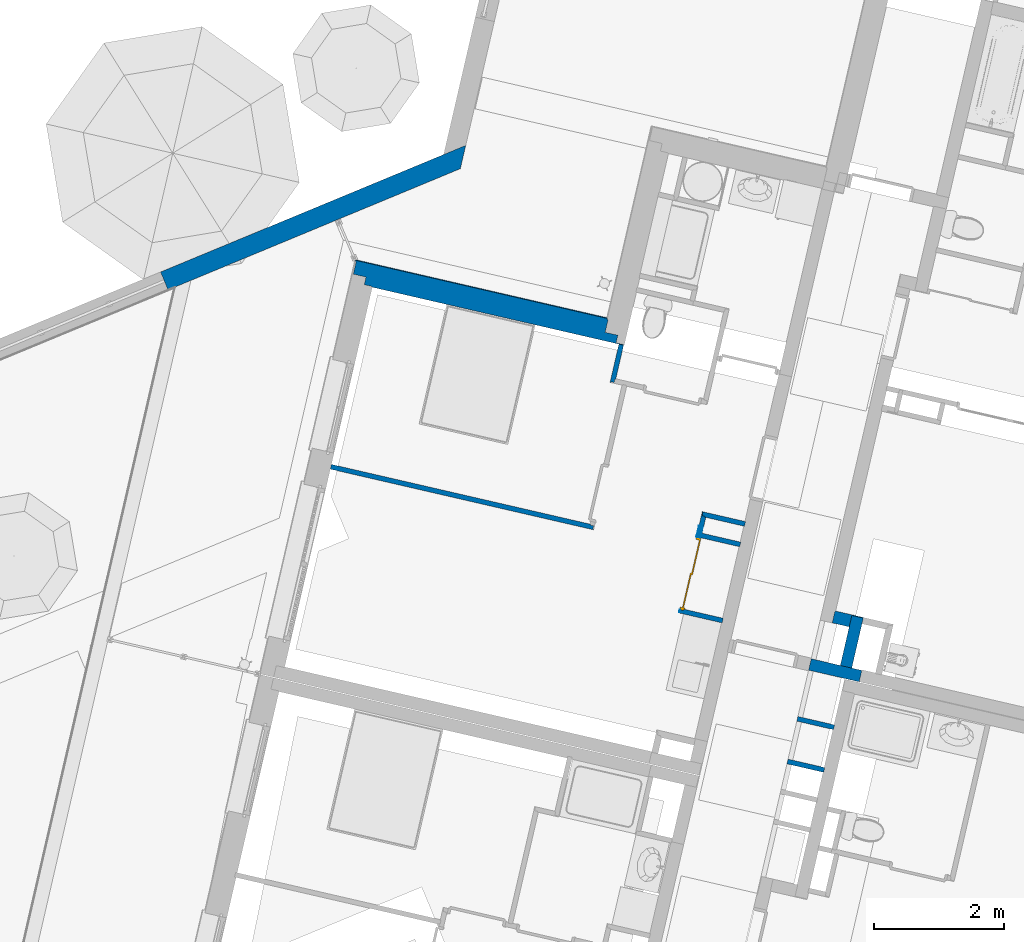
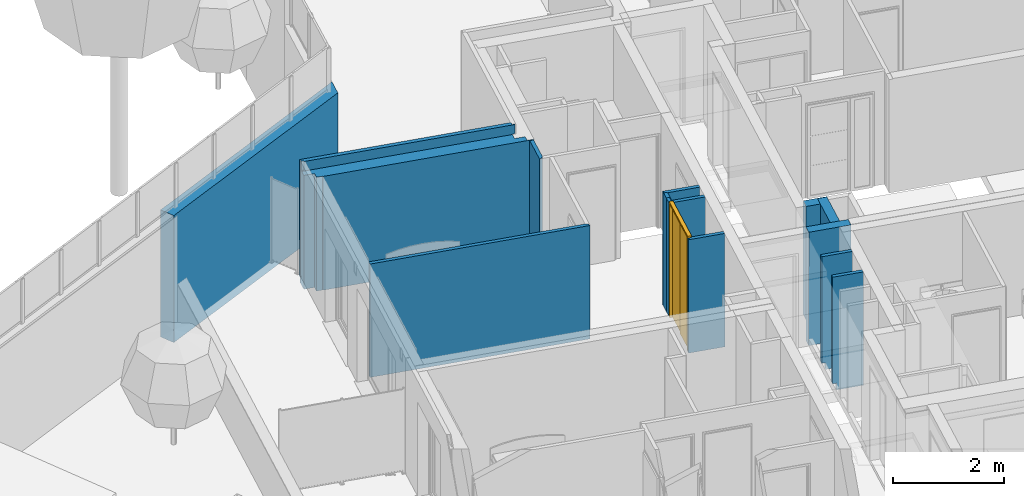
# One storey, part 50 of 119: 14 walls, 1 door, 1 opening.
"""IFC2X3 building model written with IfcOpenShell, lengths in metres."""

import ifcopenshell
import ifcopenshell.guid

model = None  # the IFC model being written
_history = None  # IfcOwnerHistory: only IFC2X3 demands one
_inside = {}  # id of a spatial element -> (the spatial element, [elements in it])
_under = {}  # id of a project, library or spatial element -> (it, [spatial elements below it])
_declared = {}  # id of a project -> (the project, [libraries it declares])
_typed = {}  # id of a type object -> (the type object, [elements of that type])
_made_of = {}  # id of a material, layer set ... -> (it, [elements and type objects made of it])


def new_model(schema):
    """Start an empty IFC model of exactly this schema.

    Asked for "IFC4X3", IfcOpenShell would pick the latest addendum, in which some entities
    have other attributes; the version numbers below select the first issue.
    IFC2X3 requires an IfcOwnerHistory on every rooted entity: one is made here for all.
    """
    global model, _history
    if schema == "IFC4X3":
        model = ifcopenshell.file(schema_version=(4, 3, 0, 0))
    else:
        model = ifcopenshell.file(schema=schema)
    _inside.clear()
    _under.clear()
    _declared.clear()
    _typed.clear()
    _made_of.clear()
    _history = None
    if model.schema == "IFC2X3":
        org = make("IfcOrganization", Name="unknown")
        user = make(
            "IfcPersonAndOrganization",
            ThePerson=make("IfcPerson", FamilyName="unknown"),
            TheOrganization=org,
        )
        app = make(
            "IfcApplication",
            ApplicationDeveloper=org,
            Version="unknown",
            ApplicationFullName="unknown",
            ApplicationIdentifier="unknown",
        )
        _history = make(
            "IfcOwnerHistory",
            OwningUser=user,
            OwningApplication=app,
            ChangeAction="ADDED",
            CreationDate=0,
        )
    return model


def make(cls, **values):
    """One entity of the class cls with the attributes given. An attribute that is None is left unset."""
    return model.create_entity(
        cls, **{name: value for name, value in values.items() if value is not None}
    )


def entity(cls, *values):
    """Any entity or typed value of the class cls, its attributes in the order of the schema. None: left unset."""
    e = model.create_entity(cls)
    for i, value in enumerate(values):
        if value is not None:
            e[i] = value
    return e


def rooted(cls, **values):
    """An entity with a GlobalId (a new one), such as an element, a storey or a relation."""
    return make(cls, GlobalId=ifcopenshell.guid.new(), OwnerHistory=_history, **values)


def si_unit(unit_type, name, prefix=None):
    """IfcSIUnit, for example si_unit("LENGTHUNIT", "METRE", prefix="MILLI")."""
    return make("IfcSIUnit", UnitType=unit_type, Prefix=prefix, Name=name)


def converted_unit(unit_type, name, factor, base, dimensions=None, offset=None):
    """IfcConversionBasedUnit, such as the inch: factor (a typed value) times the base unit."""
    return make(
        "IfcConversionBasedUnit"
        if offset is None
        else "IfcConversionBasedUnitWithOffset",
        ConversionOffset=offset,
        Dimensions=None
        if dimensions is None
        else entity("IfcDimensionalExponents", *dimensions),
        UnitType=unit_type,
        Name=name,
        ConversionFactor=make(
            "IfcMeasureWithUnit", ValueComponent=factor, UnitComponent=base
        ),
    )


def derived_unit(unit_type, elements):
    """IfcDerivedUnit: a product of units, each with its exponent."""
    return make(
        "IfcDerivedUnit",
        Elements=[
            make("IfcDerivedUnitElement", Unit=unit, Exponent=power)
            for unit, power in elements
        ],
        UnitType=unit_type,
    )


def money_unit(currency):
    """IfcMonetaryUnit."""
    return make("IfcMonetaryUnit", Currency=currency)


def assignment(units):
    """IfcUnitAssignment: the units of a project."""
    return None if units is None else make("IfcUnitAssignment", Units=units)


def point(xyz):
    """IfcCartesianPoint."""
    return None if xyz is None else make("IfcCartesianPoint", Coordinates=xyz)


def direction(xyz):
    """IfcDirection."""
    return None if xyz is None else make("IfcDirection", DirectionRatios=xyz)


def frame(location, z_axis=None, x_axis=None):
    """IfcAxis2Placement3D, a coordinate frame: its origin and axes. An axis left out is left unset."""
    return make(
        "IfcAxis2Placement3D",
        Location=point(location),
        Axis=direction(z_axis),
        RefDirection=direction(x_axis),
    )


def origin_with_axes():
    """The frame at (0, 0, 0) with the z axis (0, 0, 1) and the x axis (1, 0, 0) written out."""
    return frame((0.0, 0.0, 0.0), z_axis=(0.0, 0.0, 1.0), x_axis=(1.0, 0.0, 0.0))


def place(relative_to, where):
    """IfcLocalPlacement: puts the frame where relative to a parent placement (None: the world)."""
    return make(
        "IfcLocalPlacement", PlacementRelTo=relative_to, RelativePlacement=where
    )


def context(
    kind, dimensions, precision=None, world=None, true_north=None, identifier=None
):
    """IfcGeometricRepresentationContext, for example the 3D "Model" context."""
    return make(
        "IfcGeometricRepresentationContext",
        ContextIdentifier=identifier,
        ContextType=kind,
        CoordinateSpaceDimension=dimensions,
        Precision=precision,
        WorldCoordinateSystem=world,
        TrueNorth=true_north,
    )


def subcontext(parent, identifier, kind, view, scale=None):
    """IfcGeometricRepresentationSubContext, for example "Body" below "Model"."""
    return make(
        "IfcGeometricRepresentationSubContext",
        ContextIdentifier=identifier,
        ContextType=kind,
        ParentContext=parent,
        TargetScale=scale,
        TargetView=view,
    )


def project(units=None, contexts=None):
    """IfcProject with its units and contexts."""
    return rooted(
        "IfcProject",
        Name="project",
        RepresentationContexts=contexts,
        UnitsInContext=assignment(units),
    )


def spatial(cls, under=None, at=None, **own):
    """A site, building, storey or space (cls), placed at a placement, below another one or the project."""
    s = rooted(cls, ObjectPlacement=at, **own)
    if under is not None:
        _under.setdefault(under.id(), (under, []))[1].append(s)
    return s


def faces_of(points, faces, orient=None, outer=None):
    """IfcFace entities. A face is a list of loops; a loop is a list of indices into points, from 0.

    orient and outer hold one flag for each loop. By default every Orientation is true, the
    first loop of a face is its IfcFaceOuterBound and the others are IfcFaceBound.
    """
    made = []
    for i, loops in enumerate(faces):
        bounds = []
        for j, loop in enumerate(loops):
            is_outer = j == 0 if outer is None else outer[i][j]
            bounds.append(
                make(
                    "IfcFaceOuterBound" if is_outer else "IfcFaceBound",
                    Bound=make("IfcPolyLoop", Polygon=[points[k] for k in loop]),
                    Orientation=True if orient is None else orient[i][j],
                )
            )
        made.append(make("IfcFace", Bounds=bounds))
    return made


def faceted_brep(points, faces, orient=None, outer=None, voids=None):
    """IfcFacetedBrep: a solid bounded by flat faces; with voids (closed shells), ...WithVoids."""
    shared = [point(p) for p in points]
    hull = make("IfcClosedShell", CfsFaces=faces_of(shared, faces, orient, outer))
    if voids is None:
        return make("IfcFacetedBrep", Outer=hull)
    return make(
        "IfcFacetedBrepWithVoids",
        Outer=hull,
        Voids=[
            make(cls, CfsFaces=faces_of(shared, fs, o, b)) for cls, fs, o, b in voids
        ],
    )


def shape(context_of_items, identifier, shape_type, items):
    """IfcShapeRepresentation: the items that make up one representation, for example the "Body"."""
    return make(
        "IfcShapeRepresentation",
        ContextOfItems=context_of_items,
        RepresentationIdentifier=identifier,
        RepresentationType=shape_type,
        Items=items,
    )


def material(Name=None, Category=None):
    """IfcMaterial."""
    return make("IfcMaterial", Name=Name, Category=Category)


def material_list(materials):
    """IfcMaterialList."""
    return make("IfcMaterialList", Materials=materials)


def made_of(thing, what):
    """Note that an element or type object is made of a material, layer set ...; save() writes the relation."""
    if what is not None:
        _made_of.setdefault(what.id(), (what, []))[1].append(thing)
    return thing


def type_object(cls, material=None, **own):
    """A type object (cls), such as IfcWallType, which elements share."""
    return made_of(rooted(cls, **own), material)


def element(
    cls,
    number,
    at=None,
    inside=None,
    cuts=None,
    type_object=None,
    material=None,
    context=None,
    identifier="Body",
    shape_type=None,
    held_by="IfcProductDefinitionShape",
    body=None,
    shapes=None,
    **own,
):
    """One element of the class cls, such as IfcWall. Its Tag is "e" and its number.

    at: its placement. inside: the storey or other place that contains it. cuts: it is an
    opening in that element (IfcRelVoidsElement). A single representation is given by context,
    identifier, shape_type and body (its items); several are given by shapes. held_by: the class
    of the entity that holds the representations. save() writes the other relations.
    """
    e = rooted(cls, Tag="e%d" % number, ObjectPlacement=at, **own)
    if body is not None:
        shapes = [shape(context, identifier, shape_type, body)]
    if shapes is not None:
        e.Representation = make(held_by, Representations=shapes)
    if inside is not None:
        _inside.setdefault(inside.id(), (inside, []))[1].append(e)
    if cuts is not None:
        rooted(
            "IfcRelVoidsElement", RelatingBuildingElement=cuts, RelatedOpeningElement=e
        )
    if type_object is not None:
        _typed.setdefault(type_object.id(), (type_object, []))[1].append(e)
    return made_of(e, material)


def fill(opening, filler):
    """IfcRelFillsElement: the door or window that sits in an opening."""
    return rooted(
        "IfcRelFillsElement",
        RelatingOpeningElement=opening,
        RelatedBuildingElement=filler,
    )


def aggregate(whole, parts):
    """IfcRelAggregates: a whole, such as a stair, and the parts it consists of."""
    return rooted("IfcRelAggregates", RelatingObject=whole, RelatedObjects=parts)


def save(model, path):
    """Write the relations noted so far, then the file.

    IfcRelAggregates (storeys below a building ...), IfcRelContainedInSpatialStructure (elements
    in a storey), IfcRelDefinesByType, IfcRelAssociatesMaterial and IfcRelDeclares: one each for
    every whole, place, type object, material and project.
    """
    for whole, parts in _under.values():
        aggregate(whole, parts)
    for where, things in _inside.values():
        rooted(
            "IfcRelContainedInSpatialStructure",
            RelatedElements=things,
            RelatingStructure=where,
        )
    for kind, things in _typed.values():
        rooted("IfcRelDefinesByType", RelatedObjects=things, RelatingType=kind)
    for what, things in _made_of.values():
        rooted("IfcRelAssociatesMaterial", RelatedObjects=things, RelatingMaterial=what)
    for by, libraries in _declared.values():
        rooted("IfcRelDeclares", RelatingContext=by, RelatedDefinitions=libraries)
    model.write(path)


model = new_model("IFC2X3")

# Units and contexts
model_context = context("Model", 3, precision=1e-05, world=origin_with_axes(), true_north=direction((0.0, 1.0)))
body_context = subcontext(model_context, "Body", "Model", "MODEL_VIEW")
ifc_project = project(units=[si_unit("LENGTHUNIT", "METRE"), si_unit("AREAUNIT", "SQUARE_METRE"), si_unit("VOLUMEUNIT", "CUBIC_METRE"), converted_unit("PLANEANGLEUNIT", "DEGREE", entity("IfcPlaneAngleMeasure", 0.0174532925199), si_unit("PLANEANGLEUNIT", "RADIAN"), dimensions=[0, 0, 0, 0, 0, 0, 0]), si_unit("SOLIDANGLEUNIT", "STERADIAN"), money_unit("EUR"), converted_unit("TIMEUNIT", "Year", entity("IfcTimeMeasure", 31556926.0), si_unit("TIMEUNIT", "SECOND"), dimensions=[0, 0, 1, 0, 0, 0, 0]), si_unit("MASSUNIT", "GRAM", prefix="KILO"), si_unit("THERMODYNAMICTEMPERATUREUNIT", "DEGREE_CELSIUS"), si_unit("LUMINOUSINTENSITYUNIT", "LUMEN"), si_unit("ENERGYUNIT", "JOULE", prefix="MEGA"), derived_unit("THERMALCONDUCTANCEUNIT", [(si_unit("POWERUNIT", "WATT"), 1), (si_unit("LENGTHUNIT", "METRE"), -1), (si_unit("THERMODYNAMICTEMPERATUREUNIT", "KELVIN"), -1)]), derived_unit("SPECIFICHEATCAPACITYUNIT", [(si_unit("ENERGYUNIT", "JOULE"), 1), (si_unit("MASSUNIT", "GRAM", prefix="KILO"), -1), (si_unit("THERMODYNAMICTEMPERATUREUNIT", "KELVIN"), -1)]), derived_unit("MASSDENSITYUNIT", [(si_unit("MASSUNIT", "GRAM", prefix="KILO"), 1), (si_unit("VOLUMEUNIT", "CUBIC_METRE"), -1)])], contexts=[model_context])

# Site, building, storey
site_placement = place(None, origin_with_axes())
site = spatial("IfcSite", under=ifc_project, at=site_placement, Name="Site", CompositionType="ELEMENT")
building_placement = place(site_placement, origin_with_axes())
building = spatial("IfcBuilding", under=site, at=building_placement, Name="Bâtiment", CompositionType="ELEMENT")
storey_placement = place(building_placement, origin_with_axes())
storey = spatial("IfcBuildingStorey", under=building, at=storey_placement, Name="Rez-de-chaussée", CompositionType="ELEMENT", Elevation=0.0)

# Walls
ifc_material_1 = material(Name="Béton")
wall_type_1 = type_object("IfcWallType", Name="Béton 300", PredefinedType="USERDEFINED")
wall_1_placement = place(storey_placement, frame((-18.3334267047, 9.91159361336, -0.03), z_axis=(0.0, 0.0, 1.0), x_axis=(0.923701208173, 0.383113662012, 0.0)))
element("IfcWall", 1, at=wall_1_placement, inside=storey, type_object=wall_type_1, material=ifc_material_1, Name="Voile projeté béton par passes alternées", ObjectType="SOLIDWALL", context=body_context, shape_type="Brep", body=[
    faceted_brep([(0.0, 0.0, 0.0), (0.0, 0.3, 0.0), (5.08651391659, 0.3, 0.0), (4.87234991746, 0.0, 0.0), (0.0, 0.0, 2.8), (0.0, 0.3, 2.8), (5.08651391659, 0.3, 2.8), (4.87234991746, 0.0, 2.8)], [[[0, 1, 2, 3]], [[0, 4, 5, 1]], [[1, 5, 6, 2]], [[6, 7, 3, 2]], [[4, 0, 3, 7]], [[5, 4, 7, 6]]]),
])
ifc_material_2 = material(Name="Cloison - Carreaux de plâtre")
wall_type_2 = type_object("IfcWallType", Name="Cloison - Carreaux de plâtre 74", PredefinedType="USERDEFINED")
wall_2_placement = place(storey_placement, frame((-8.78745674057, 2.6877378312, 0.0), z_axis=(0.0, 0.0, 1.0), x_axis=(0.974387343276, -0.224876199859, 0.0)))
element("IfcWall", 2, at=wall_2_placement, inside=storey, type_object=wall_type_2, material=ifc_material_2, Name="Carreaux de plâtre 8cm", ObjectType="PARTITIONING", context=body_context, shape_type="Brep", body=[
    faceted_brep([(0.580000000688, 0.0, 0.0), (0.0739999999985, 0.0, 0.0), (0.0739999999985, 0.0, 0.15), (0.0, 0.0, 0.15), (0.0, 0.0, 2.5), (0.580000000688, 0.0, 2.5), (0.580000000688, -0.074, 0.0), (0.0739999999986, -0.074, 0.0), (0.0739999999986, -0.074, 0.15), (0.0, -0.074, 0.15), (0.0, -0.074, 2.5), (0.580000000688, -0.074, 2.5)], [[[0, 1, 2, 3, 4, 5]], [[0, 6, 7, 1]], [[7, 8, 2, 1]], [[8, 9, 3, 2]], [[10, 4, 3, 9]], [[10, 11, 5, 4]], [[11, 6, 0, 5]], [[10, 9, 8, 7, 6, 11]]]),
])
wall_3_placement = place(storey_placement, frame((-8.63589018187, 3.34447490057, 0.0), z_axis=(0.0, 0.0, 1.0), x_axis=(0.974387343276, -0.224876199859, 0.0)))
element("IfcWall", 3, at=wall_3_placement, inside=storey, type_object=wall_type_2, material=ifc_material_2, Name="Carreaux de plâtre 8cm", ObjectType="PARTITIONING", context=body_context, shape_type="Brep", body=[
    faceted_brep([(0.580000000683, 0.0, 0.0), (0.0739999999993, 0.0, 0.0), (0.0739999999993, 0.0, 0.15), (0.0, 0.0, 0.15), (0.0, 0.0, 2.5), (0.580000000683, 0.0, 2.5), (0.580000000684, -0.074, 0.0), (0.0739999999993, -0.074, 0.0), (0.0739999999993, -0.074, 0.15), (0.0, -0.074, 0.15), (0.0, -0.074, 2.5), (0.580000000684, -0.074, 2.5)], [[[0, 1, 2, 3, 4, 5]], [[0, 6, 7, 1]], [[7, 8, 2, 1]], [[8, 9, 3, 2]], [[10, 4, 3, 9]], [[10, 11, 5, 4]], [[11, 6, 0, 5]], [[10, 9, 8, 7, 6, 11]]]),
])

# Wall, opening, door
ifc_material_3 = material(Name="Isolation - Laine de roche")
ifc_material_4 = material(Name="Finition int - Plaque de plâtre")
ifc_material_list_1 = material_list([ifc_material_3, ifc_material_4])
wall_type_3 = type_object("IfcWallType", Name="3 - Cloison 72mm Placostil 74", PredefinedType="USERDEFINED")
wall_4_placement = place(storey_placement, frame((-10.1981851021, 6.11093090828, 0.0), z_axis=(0.0, 0.0, 1.0), x_axis=(-0.22487619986, -0.974387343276, 0.0)))
wall_4 = element("IfcWall", 4, at=wall_4_placement, inside=storey, type_object=wall_type_3, material=ifc_material_list_1, Name="Cloison Placostil 72/48", ObjectType="PARTITIONING", context=body_context, shape_type="Brep", body=[
    faceted_brep([(-2.88858714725e-10, 0.0130000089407, 2.5), (-2.88858270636e-10, 0.0610000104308, 2.5), (-0.174000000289, 0.061, 2.5), (-0.174000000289, 0.013, 2.5), (-2.88858270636e-10, 0.0610000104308, 0.0), (-2.88858714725e-10, 0.0130000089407, 0.0), (-0.174000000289, 0.061, 0.0), (-0.174000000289, 0.013, 0.0)], [[[0, 1, 2, 3]], [[4, 1, 0, 5]], [[1, 4, 6, 2]], [[6, 7, 3, 2]], [[5, 0, 3, 7]], [[4, 5, 7, 6]]]),
    faceted_brep([(1.14999999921, 0.0130000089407, 0.0), (1.14999999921, 0.0130000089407, 2.5), (1.18996281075, 0.013, 2.5), (1.18996281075, 0.013, 0.0), (1.14999999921, 0.0, 2.5), (1.14999999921, 0.0, 0.0), (1.1899628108, 0.0, 2.5), (1.1899628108, 0.0, 0.0)], [[[0, 1, 2, 3]], [[4, 1, 0, 5]], [[1, 4, 6, 2]], [[3, 2, 6, 7]], [[5, 0, 3, 7]], [[4, 5, 7, 6]]]),
    faceted_brep([(-2.88858270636e-10, 0.0, 2.5), (-2.88858714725e-10, 0.0130000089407, 2.5), (-0.174000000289, 0.013, 2.5), (-0.174000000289, 0.0, 2.5), (-2.88858714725e-10, 0.0130000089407, 0.0), (-2.88858270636e-10, 0.0, 0.0), (-0.174000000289, 0.013, 0.0), (-0.174000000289, 0.0, 0.0)], [[[0, 1, 2, 3]], [[4, 1, 0, 5]], [[1, 4, 6, 2]], [[6, 7, 3, 2]], [[5, 0, 3, 7]], [[4, 5, 7, 6]]]),
])
opening_placement = place(wall_4_placement, frame((0.574999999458, 0.0, 0.0), z_axis=(0.0, 0.0, 1.0), x_axis=(1.0, 0.0, 0.0)))
opening = element("IfcOpeningElement", 5, at=opening_placement, cuts=wall_4, Name="Por-002", context=body_context, shape_type="Brep", body=[
    faceted_brep([(-0.574999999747, 0.074, 0.0), (0.574999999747, 0.074, 0.0), (0.574999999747, -0.074, 0.0), (-0.574999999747, -0.074, 0.0), (-0.574999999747, 0.074, 2.54), (0.574999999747, 0.074, 2.54), (0.574999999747, -0.074, 2.54), (-0.574999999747, -0.074, 2.54)], [[[0, 1, 2, 3]], [[0, 4, 5, 1]], [[1, 5, 6, 2]], [[3, 2, 6, 7]], [[4, 0, 3, 7]], [[5, 4, 7, 6]]]),
])
door_style = type_object("IfcDoorStyle", Name="Porte int générique 2019", ConstructionType="NOTDEFINED", OperationType="USERDEFINED", ParameterTakesPrecedence=False, Sizeable=False)
door_placement = place(opening_placement, frame((-0.534999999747, 0.0, 0.0), z_axis=(0.0, 0.0, 1.0), x_axis=(1.0, 0.0, 0.0)))
door = element("IfcDoor", 6, at=door_placement, inside=storey, type_object=door_style, Name="Por-002", ObjectType="DOOR", OverallHeight=2.5, OverallWidth=1.07, context=body_context, shape_type="Brep", body=[
    faceted_brep([(-0.04, 0.074, 0.0), (-0.04, 0.074, 2.54), (1.10999999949, 0.074, 2.54), (1.10999999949, 0.074, 0.0), (1.06999999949, 0.074, 0.0), (1.06999999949, 0.074, 2.5), (0.0, 0.074, 2.5), (0.0, 0.074, 0.0), (-0.04, 0.0, 0.0), (-0.04, 0.0, 2.54), (1.10999999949, 0.0, 2.54), (1.10999999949, 0.0, 0.0), (1.06999999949, 0.0, 0.0), (1.06999999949, 0.0, 2.5), (0.0, 0.0, 2.5), (0.0, 0.0, 0.0)], [[[0, 1, 2, 3, 4, 5, 6, 7]], [[8, 9, 1, 0]], [[9, 10, 2, 1]], [[10, 11, 3, 2]], [[3, 11, 12, 4]], [[5, 4, 12, 13]], [[6, 5, 13, 14]], [[7, 6, 14, 15]], [[0, 7, 15, 8]], [[15, 14, 13, 12, 11, 10, 9, 8]]]),
    faceted_brep([(0.0, 0.074, 0.0), (0.549999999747, 0.074, 0.0), (0.549999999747, 0.054, 0.0), (0.0, 0.054, 0.0), (0.0, 0.074, 2.5), (0.549999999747, 0.074, 2.5), (0.549999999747, 0.054, 2.5), (0.0, 0.054, 2.5)], [[[0, 1, 2, 3]], [[0, 4, 5, 1]], [[1, 5, 6, 2]], [[3, 2, 6, 7]], [[4, 0, 3, 7]], [[5, 4, 7, 6]]]),
    faceted_brep([(0.519999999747, 0.054, 0.0), (1.06999999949, 0.054, 0.0), (1.06999999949, 0.034, 0.0), (0.519999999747, 0.034, 0.0), (0.519999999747, 0.054, 2.5), (1.06999999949, 0.054, 2.5), (1.06999999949, 0.034, 2.5), (0.519999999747, 0.034, 2.5)], [[[0, 1, 2, 3]], [[0, 4, 5, 1]], [[1, 5, 6, 2]], [[3, 2, 6, 7]], [[4, 0, 3, 7]], [[5, 4, 7, 6]]]),
])
fill(opening, door)

# Walls
ifc_material_list_2 = material_list([ifc_material_4, ifc_material_3, ifc_material_4])
wall_5_placement = place(storey_placement, frame((-9.53170416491, 5.95711559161, 0.0), z_axis=(0.0, 0.0, 1.0), x_axis=(-0.974387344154, 0.224876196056, 0.0)))
element("IfcWall", 7, at=wall_5_placement, inside=storey, type_object=wall_type_3, material=ifc_material_list_2, Name="Cloison Placostil 72/48", ObjectType="PARTITIONING", context=body_context, shape_type="Brep", body=[
    faceted_brep([(0.0, -0.013, 0.0), (0.622999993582, -0.013, 0.0), (0.622999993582, -0.013, 2.5), (0.0, -0.013, 2.5), (0.0, 0.0, 0.0), (0.622999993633, 0.0, 0.0), (0.622999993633, 0.0, 2.5), (0.0, 0.0, 2.5)], [[[0, 1, 2, 3]], [[4, 5, 1, 0]], [[5, 6, 2, 1]], [[3, 2, 6, 7]], [[4, 0, 3, 7]], [[7, 6, 5, 4]]]),
    faceted_brep([(-2.37522002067e-10, -0.061, 2.5), (0.622999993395, -0.061, 2.5), (0.622999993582, -0.013, 2.5), (0.0, -0.013, 2.5), (-2.37522002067e-10, -0.061, 0.0), (0.622999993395, -0.061, 0.0), (0.622999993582, -0.013, 0.0), (0.0, -0.013, 0.0)], [[[0, 1, 2, 3]], [[4, 5, 1, 0]], [[6, 2, 1, 5]], [[3, 2, 6, 7]], [[7, 4, 0, 3]], [[7, 6, 5, 4]]]),
    faceted_brep([(-2.88141066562e-10, -0.074, 2.5), (0.609999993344, -0.074, 2.5), (0.609999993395, -0.061, 2.5), (-2.37522002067e-10, -0.061, 2.5), (-2.88141066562e-10, -0.074, 0.0), (0.609999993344, -0.074, 0.0), (0.609999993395, -0.061, 0.0), (-2.37522002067e-10, -0.061, 0.0)], [[[0, 1, 2, 3]], [[4, 5, 1, 0]], [[6, 2, 1, 5]], [[3, 2, 6, 7]], [[7, 4, 0, 3]], [[7, 6, 5, 4]]]),
])
wall_6_placement = place(storey_placement, frame((-10.108684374, 6.4987370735, 0.0), z_axis=(0.0, 0.0, 1.0), x_axis=(-0.22487619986, -0.974387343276, 0.0)))
element("IfcWall", 8, at=wall_6_placement, inside=storey, type_object=wall_type_3, material=ifc_material_list_2, Name="Cloison Placostil 72/48", ObjectType="PARTITIONING", context=body_context, shape_type="Brep", body=[
    faceted_brep([(0.0739999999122, 0.074, 0.0), (0.337000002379, 0.074, 0.0), (0.33700000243, 0.061, 0.0), (0.0739999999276, 0.061, 0.0), (0.0739999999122, 0.074, 2.5), (0.337000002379, 0.074, 2.5), (0.33700000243, 0.061, 2.5), (0.0739999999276, 0.061, 2.5)], [[[0, 1, 2, 3]], [[4, 5, 1, 0]], [[6, 2, 1, 5]], [[3, 2, 6, 7]], [[7, 4, 0, 3]], [[7, 6, 5, 4]]]),
    faceted_brep([(0.0609999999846, 0.013, 2.5), (0.224000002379, 0.013, 2.5), (0.224000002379, 0.061, 2.5), (0.0609999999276, 0.061, 2.5), (0.0609999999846, 0.013, 0.0), (0.224000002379, 0.013, 0.0), (0.224000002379, 0.061, 0.0), (0.0609999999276, 0.061, 0.0)], [[[0, 1, 2, 3]], [[4, 5, 1, 0]], [[5, 6, 2, 1]], [[3, 2, 6, 7]], [[0, 3, 7, 4]], [[7, 6, 5, 4]]]),
    faceted_brep([(0.013, 0.0, 2.5), (0.224000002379, 0.0, 2.5), (0.224000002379, 0.013, 2.5), (0.0129999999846, 0.013, 2.5), (0.013, 0.0, 0.0), (0.224000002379, 0.0, 0.0), (0.224000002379, 0.013, 0.0), (0.0129999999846, 0.013, 0.0)], [[[0, 1, 2, 3]], [[4, 5, 1, 0]], [[5, 6, 2, 1]], [[3, 2, 6, 7]], [[0, 3, 7, 4]], [[7, 6, 5, 4]]]),
])
wall_7_placement = place(storey_placement, frame((-9.8022218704, 4.78496385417, 0.0), z_axis=(0.0, 0.0, 1.0), x_axis=(-0.974387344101, 0.224876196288, 0.0)))
element("IfcWall", 9, at=wall_7_placement, inside=storey, type_object=wall_type_3, material=ifc_material_list_2, Name="Cloison Placostil 72/48", ObjectType="PARTITIONING", context=body_context, shape_type="Brep", body=[
    faceted_brep([(0.683999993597, -0.013, 2.5), (0.683999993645, 0.0, 2.5), (0.0, 0.0, 2.5), (0.0, -0.013, 2.5), (0.683999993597, -0.013, 0.0), (0.683999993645, 0.0, 0.0), (0.0, 0.0, 0.0), (0.0, -0.013, 0.0)], [[[0, 1, 2, 3]], [[1, 0, 4, 5]], [[1, 5, 6, 2]], [[7, 3, 2, 6]], [[4, 0, 3, 7]], [[5, 4, 7, 6]]]),
    faceted_brep([(0.62299998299, -0.0610000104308, 0.0), (0.62299998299, -0.0610000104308, 2.5), (-2.23064233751e-10, -0.061, 2.5), (-2.23064233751e-10, -0.061, 0.0), (0.631037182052, -0.0529628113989, 2.5), (0.631037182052, -0.0529628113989, 0.0), (0.67099998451, -0.0529628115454, 2.5), (0.670999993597, -0.013, 2.5), (0.0, -0.013, 2.5), (0.0, -0.013, 0.0), (0.670999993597, -0.013, 0.0), (0.67099998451, -0.0529628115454, 0.0)], [[[0, 1, 2, 3]], [[4, 1, 0, 5]], [[4, 6, 7, 8, 2, 1]], [[9, 3, 2, 8]], [[5, 0, 3, 9, 10, 11]], [[6, 4, 5, 11]], [[6, 11, 10, 7]], [[8, 7, 10, 9]]]),
    faceted_brep([(0.610000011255, -0.0739999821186, 0.0), (0.610000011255, -0.0739999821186, 2.5), (-2.70597766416e-10, -0.074, 2.5), (-2.70597766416e-10, -0.074, 0.0), (0.62299998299, -0.0610000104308, 2.5), (0.62299998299, -0.0610000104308, 0.0), (-2.23064233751e-10, -0.061, 2.5), (-2.23064233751e-10, -0.061, 0.0)], [[[0, 1, 2, 3]], [[4, 1, 0, 5]], [[1, 4, 6, 2]], [[7, 3, 2, 6]], [[5, 0, 3, 7]], [[4, 5, 7, 6]]]),
])
wall_8_placement = place(storey_placement, frame((-9.44220343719, 6.34492175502, 0.0), z_axis=(0.0, 0.0, 1.0), x_axis=(-0.974387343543, 0.224876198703, 0.0)))
element("IfcWall", 10, at=wall_8_placement, inside=storey, type_object=wall_type_3, material=ifc_material_list_2, Name="Cloison Placostil 72/48", ObjectType="PARTITIONING", context=body_context, shape_type="Brep", body=[
    faceted_brep([(0.622999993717, 0.074, 0.0), (0.622999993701, 0.061, 0.0), (0.0, 0.061, 0.0), (0.0, 0.074, 0.0), (0.622999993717, 0.074, 2.5), (0.622999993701, 0.061, 2.5), (0.0, 0.061, 2.5), (0.0, 0.074, 2.5)], [[[0, 1, 2, 3]], [[1, 0, 4, 5]], [[1, 5, 6, 2]], [[7, 3, 2, 6]], [[4, 0, 3, 7]], [[5, 4, 7, 6]]]),
    faceted_brep([(0.670999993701, 0.061, 0.0), (0.670999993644, 0.013, 0.0), (0.0, 0.013, 0.0), (0.0, 0.061, 0.0), (0.670999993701, 0.061, 2.5), (0.670999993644, 0.013, 2.5), (0.0, 0.013, 2.5), (0.0, 0.061, 2.5)], [[[0, 1, 2, 3]], [[1, 0, 4, 5]], [[1, 5, 6, 2]], [[7, 3, 2, 6]], [[4, 0, 3, 7]], [[5, 4, 7, 6]]]),
    faceted_brep([(0.683999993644, 0.013, 0.0), (0.683999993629, 0.0, 0.0), (0.0, 0.0, 0.0), (0.0, 0.013, 0.0), (0.683999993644, 0.013, 2.5), (0.683999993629, 0.0, 2.5), (0.0, 0.0, 2.5), (0.0, 0.013, 2.5)], [[[0, 1, 2, 3]], [[1, 0, 4, 5]], [[1, 5, 6, 2]], [[7, 3, 2, 6]], [[4, 0, 3, 7]], [[5, 4, 7, 6]]]),
])
wall_9_placement = place(storey_placement, frame((-11.3919443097, 9.07756994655, 0.0), z_axis=(0.0, 0.0, 1.0), x_axis=(-0.224876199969, -0.974387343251, 0.0)))
element("IfcWall", 11, at=wall_9_placement, inside=storey, type_object=wall_type_3, material=ifc_material_list_2, Name="Cloison Placostil 72/48", ObjectType="PARTITIONING", context=body_context, shape_type="Brep", body=[
    faceted_brep([(0.543597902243, 0.074, 0.0), (0.543597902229, 0.061, 0.0), (0.0, 0.061, 0.0), (0.0, 0.074, 0.0), (0.543597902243, 0.074, 2.5), (0.543597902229, 0.061, 2.5), (0.0, 0.061, 2.5), (0.0, 0.074, 2.5)], [[[0, 1, 2, 3]], [[1, 0, 4, 5]], [[1, 5, 6, 2]], [[7, 3, 2, 6]], [[4, 0, 3, 7]], [[5, 4, 7, 6]]]),
    faceted_brep([(0.591597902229, 0.061, 0.0), (0.591597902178, 0.013, 0.0), (0.0, 0.013, 0.0), (0.0, 0.061, 0.0), (0.591597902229, 0.061, 2.5), (0.591597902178, 0.013, 2.5), (0.0, 0.013, 2.5), (0.0, 0.061, 2.5)], [[[0, 1, 2, 3]], [[1, 0, 4, 5]], [[1, 5, 6, 2]], [[7, 3, 2, 6]], [[4, 0, 3, 7]], [[5, 4, 7, 6]]]),
    faceted_brep([(0.604597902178, 0.013, 0.0), (0.604597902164, 0.0, 0.0), (0.0, 0.0, 0.0), (0.0, 0.013, 0.0), (0.604597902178, 0.013, 2.5), (0.604597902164, 0.0, 2.5), (0.0, 0.0, 2.5), (0.0, 0.013, 2.5)], [[[0, 1, 2, 3]], [[1, 0, 4, 5]], [[1, 5, 6, 2]], [[7, 3, 2, 6]], [[4, 0, 3, 7]], [[5, 4, 7, 6]]]),
])
wall_10_placement = place(storey_placement, frame((-11.781974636, 6.21803828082, 0.0), z_axis=(0.0, 0.0, 1.0), x_axis=(-0.974387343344, 0.224876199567, 0.0)))
element("IfcWall", 12, at=wall_10_placement, inside=storey, type_object=wall_type_3, material=ifc_material_list_2, Name="Cloison Placostil 72/48", ObjectType="PARTITIONING", context=body_context, shape_type="Brep", body=[
    faceted_brep([(0.0, -0.013, 2.5), (4.15900000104, -0.013, 2.5), (4.15900000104, 0.0, 2.5), (0.0, 0.0, 2.5), (0.0, -0.013, 0.0), (4.15900000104, -0.013, 0.0), (4.15900000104, 0.0, 0.0), (0.0, 0.0, 0.0)], [[[0, 1, 2, 3]], [[4, 5, 1, 0]], [[2, 1, 5, 6]], [[3, 2, 6, 7]], [[4, 0, 3, 7]], [[7, 6, 5, 4]]]),
    faceted_brep([(0.0129999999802, -0.061, 2.5), (4.15900000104, -0.061, 2.5), (4.15900000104, -0.013, 2.5), (0.0129999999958, -0.013, 2.5), (0.0129999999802, -0.061, 0.0), (4.15900000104, -0.061, 0.0), (4.15900000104, -0.013, 0.0), (0.0129999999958, -0.013, 0.0)], [[[0, 1, 2, 3]], [[4, 5, 1, 0]], [[2, 1, 5, 6]], [[3, 2, 6, 7]], [[4, 0, 3, 7]], [[7, 6, 5, 4]]]),
    faceted_brep([(0.060999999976, -0.074, 2.5), (4.15900000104, -0.074, 2.5), (4.15900000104, -0.061, 2.5), (0.0609999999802, -0.061, 2.5), (0.060999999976, -0.074, 0.0), (4.15900000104, -0.074, 0.0), (4.15900000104, -0.061, 0.0), (0.0609999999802, -0.061, 0.0)], [[[0, 1, 2, 3]], [[4, 5, 1, 0]], [[2, 1, 5, 6]], [[3, 2, 6, 7]], [[4, 0, 3, 7]], [[7, 6, 5, 4]]]),
])
ifc_material_5 = material(Name="Finition int - Enduit plâtre")
ifc_material_list_3 = material_list([ifc_material_1, ifc_material_5])
wall_type_4 = type_object("IfcWallType", Name="2 - Murs Béton 18 + Enduit 1 Face 190", PredefinedType="USERDEFINED")
wall_11_placement = place(storey_placement, frame((-7.6699008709, 4.68409091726, 0.0), z_axis=(0.0, 0.0, 1.0), x_axis=(-0.974387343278, 0.224876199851, 0.0)))
element("IfcWall", 13, at=wall_11_placement, inside=storey, type_object=wall_type_4, material=ifc_material_list_3, Name="M_Ext-008", ObjectType="SOLIDWALL", context=body_context, shape_type="Brep", body=[
    faceted_brep([(0.449504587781, -0.18, 2.5), (0.449595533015, 0.0, 2.5), (0.18, 0.0, 2.5), (0.18, -0.18, 2.5), (0.449504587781, -0.18, 0.0), (0.449595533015, 0.0, 0.0), (0.18, 0.0, 0.0), (0.18, -0.18, 0.0)], [[[0, 1, 2, 3]], [[1, 0, 4, 5]], [[1, 5, 6, 2]], [[7, 3, 2, 6]], [[4, 0, 3, 7]], [[5, 4, 7, 6]]]),
    faceted_brep([(0.439499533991, -0.19, 2.5), (0.439504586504, -0.18, 2.5), (0.0, -0.18, 2.5), (0.0, -0.19, 2.5), (0.439499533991, -0.19, 0.0), (0.439504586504, -0.18, 0.0), (0.0, -0.18, 0.0), (0.0, -0.19, 0.0)], [[[0, 1, 2, 3]], [[1, 0, 4, 5]], [[1, 5, 6, 2]], [[7, 3, 2, 6]], [[4, 0, 3, 7]], [[5, 4, 7, 6]]]),
])
wall_type_5 = type_object("IfcWallType", Name="Béton 180", PredefinedType="USERDEFINED")
wall_12_placement = place(storey_placement, frame((-8.47126301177, 4.05778105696, 0.0), z_axis=(0.0, 0.0, 1.0), x_axis=(0.974387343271, -0.224876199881, 0.0)))
element("IfcWall", 14, at=wall_12_placement, inside=storey, type_object=wall_type_5, material=ifc_material_1, Name="M_Ext-009", ObjectType="SOLIDWALL", context=body_context, shape_type="Brep", body=[
    faceted_brep([(0.799994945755, 0.18, 2.5), (0.799994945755, 0.18, 0.0), (-5.05312437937e-06, 0.18, 0.0), (-5.05312437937e-06, 0.18, 0.15), (0.0, 0.18, 2.5), (0.799994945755, 0.0, 2.5), (0.799994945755, 0.0, 0.0), (-5.05312008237e-06, 0.0, 0.0), (-5.05312008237e-06, 0.0, 0.15), (0.0, 0.0, 2.5)], [[[0, 1, 2, 3, 4]], [[0, 5, 6, 1]], [[1, 6, 7, 2]], [[2, 7, 8, 3]], [[9, 4, 3, 8]], [[5, 0, 4, 9]], [[5, 9, 8, 7, 6]]]),
])
wall_13_placement = place(storey_placement, frame((-7.6699008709, 4.68409091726, 0.0), z_axis=(0.0, 0.0, 1.0), x_axis=(-0.224876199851, -0.974387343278, 0.0)))
element("IfcWall", 15, at=wall_13_placement, inside=storey, type_object=wall_type_5, material=ifc_material_1, Name="M_Ext-009", ObjectType="SOLIDWALL", context=body_context, shape_type="Brep", body=[
    faceted_brep([(-0.18, 0.0, 2.5), (-0.18, -0.18, 2.5), (0.610475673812, -0.18, 2.5), (0.610475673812, 0.0, 2.5), (-0.18, 0.0, 0.0), (-0.18, -0.18, 0.0), (0.610475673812, -0.18, 0.0), (0.610475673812, 0.0, 0.0)], [[[0, 1, 2, 3]], [[4, 5, 1, 0]], [[1, 5, 6, 2]], [[7, 3, 2, 6]], [[4, 0, 3, 7]], [[5, 4, 7, 6]]]),
])
ifc_material_6 = material(Name="Isolation - Polystyrène extrudé")
ifc_material_7 = material(Name="Bloc ELITHERM")
ifc_material_8 = material(Name="Isolation - Polystyrène expansé")
ifc_material_9 = material(Name="Mortier")
ifc_material_10 = material(Name="Béton cellulaire")
ifc_material_11 = material(Name="Etanchéité - Bitume")
ifc_material_12 = material(Name="Finition ext - Crépis")
ifc_material_13 = material(Name="Métal - Aluminium")
ifc_material_list_4 = material_list([ifc_material_4, ifc_material_6, ifc_material_7, ifc_material_8, ifc_material_9, ifc_material_10, ifc_material_11, ifc_material_12, ifc_material_13])
wall_type_6 = type_object("IfcWallType", Name="Mur ALKERN + planelle 21 TERRASSE RDC 356 x 2720", PredefinedType="USERDEFINED")
wall_14_placement = place(storey_placement, frame((-11.5799197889, 9.49041522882, 0.0), z_axis=(0.0, 0.0, 1.0), x_axis=(-0.974387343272, 0.224876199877, 0.0)))
element("IfcWall", 16, at=wall_14_placement, inside=storey, type_object=wall_type_6, material=ifc_material_list_4, Name="Mue bloc ALKERN isolé", ObjectType="SOLIDWALL", context=body_context, shape_type="Brep", body=[
    faceted_brep([(3.62999998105, 0.350000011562, 0.176532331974), (3.62999998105, 0.350000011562, 0.207793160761), (3.62999998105, 0.350000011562, 2.50955001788), (-0.35000001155, 0.350000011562, 2.50955001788), (-0.35000001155, 0.350000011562, 0.207793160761), (-0.35000001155, 0.350000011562, 0.176532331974), (-0.35000001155, 0.350000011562, 0.169414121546), (-0.35000001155, 0.350000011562, 0.160000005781), (-0.35000001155, 0.350000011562, 0.133633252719), (-0.35000001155, 0.350000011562, 0.0), (3.62999998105, 0.350000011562, 0.0), (3.62999998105, 0.350000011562, 0.133633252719), (3.62999998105, 0.350000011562, 0.160000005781), (3.62999998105, 0.350000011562, 0.169414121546), (3.62999998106, 0.359999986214, 0.176532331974), (3.62999998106, 0.359999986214, 0.207793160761), (3.62999998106, 0.359999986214, 2.50955001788), (-0.35000001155, 0.359999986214, 2.50955001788), (-0.35000001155, 0.359999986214, 0.207793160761), (-0.35000001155, 0.359999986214, 0.176532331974), (-0.35000001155, 0.359999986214, 0.169414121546), (-0.35000001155, 0.359999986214, 0.160000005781), (-0.35000001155, 0.359999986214, 0.133633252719), (-0.35000001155, 0.359999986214, 0.0), (3.62999998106, 0.359999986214, 0.0), (3.62999998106, 0.359999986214, 0.133633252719), (3.62999998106, 0.359999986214, 0.160000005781), (3.62999998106, 0.359999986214, 0.169414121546)], [[[0, 1, 2, 3, 4, 5, 6, 7, 8, 9, 10, 11, 12, 13]], [[14, 15, 1, 0]], [[15, 16, 2, 1]], [[3, 2, 16, 17]], [[4, 3, 17, 18]], [[4, 18, 19, 5]], [[6, 5, 19, 20]], [[7, 6, 20, 21]], [[22, 8, 7, 21]], [[8, 22, 23, 9]], [[23, 24, 10, 9]], [[11, 10, 24, 25]], [[11, 25, 26, 12]], [[12, 26, 27, 13]], [[27, 14, 0, 13]], [[17, 16, 15, 14, 27, 26, 25, 24, 23, 22, 21, 20, 19, 18]]]),
    faceted_brep([(3.75000000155, 0.22999997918, 0.176532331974), (3.75000000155, 0.22999997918, 0.207793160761), (3.75000000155, 0.22999997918, 2.50955001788), (-0.229999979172, 0.22999997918, 2.50955001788), (-0.229999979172, 0.22999997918, 0.207793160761), (-0.229999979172, 0.22999997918, 0.176532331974), (-0.229999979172, 0.22999997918, 0.169414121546), (-0.229999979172, 0.22999997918, 0.160000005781), (-0.229999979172, 0.22999997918, 0.133633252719), (-0.229999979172, 0.22999997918, 0.0), (3.75000000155, 0.22999997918, 0.0), (3.75000000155, 0.22999997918, 0.133633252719), (3.75000000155, 0.22999997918, 0.160000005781), (3.75000000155, 0.22999997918, 0.169414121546), (3.75000000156, 0.350000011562, 0.176532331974), (3.75000000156, 0.350000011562, 0.207793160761), (3.75000000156, 0.350000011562, 2.50955001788), (-0.229999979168, 0.350000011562, 2.50955001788), (-0.229999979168, 0.350000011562, 0.207793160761), (-0.229999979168, 0.350000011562, 0.176532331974), (-0.229999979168, 0.350000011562, 0.169414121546), (-0.229999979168, 0.350000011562, 0.160000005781), (-0.229999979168, 0.350000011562, 0.133633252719), (-0.229999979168, 0.350000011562, 0.0), (3.75000000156, 0.350000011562, 0.0), (3.75000000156, 0.350000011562, 0.133633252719), (3.75000000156, 0.350000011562, 0.160000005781), (3.75000000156, 0.350000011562, 0.169414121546)], [[[0, 1, 2, 3, 4, 5, 6, 7, 8, 9, 10, 11, 12, 13]], [[14, 15, 1, 0]], [[15, 16, 2, 1]], [[3, 2, 16, 17]], [[3, 17, 18, 4]], [[18, 19, 5, 4]], [[5, 19, 20, 6]], [[6, 20, 21, 7]], [[8, 7, 21, 22]], [[22, 23, 9, 8]], [[23, 24, 10, 9]], [[11, 10, 24, 25]], [[11, 25, 26, 12]], [[12, 26, 27, 13]], [[27, 14, 0, 13]], [[17, 16, 15, 14, 27, 26, 25, 24, 23, 22, 21, 20, 19, 18]]]),
    faceted_brep([(3.94999996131, 0.03, 0.207793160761), (3.94999999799, 0.03, 2.50955), (-0.029999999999, 0.03, 2.50955001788), (-0.029999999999, 0.03, 0.207793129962), (3.94999999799, 0.0979999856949, 2.50955), (3.94999996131, 0.0310453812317, 0.207793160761), (3.94999996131, 0.229999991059, 0.207793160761), (3.94999999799, 0.229999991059, 2.50955), (-0.0299999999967, 0.0979999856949, 2.50955001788), (-0.029999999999, 0.0310453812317, 0.207793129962), (-0.0299999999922, 0.229999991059, 2.50955001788), (-0.0299999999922, 0.229999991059, 0.207793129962), (3.94895459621, 0.0310453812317, 0.207793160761), (3.94895459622, 0.229999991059, 0.207793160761), (3.94895459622, 0.229999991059, 0.176532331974), (3.94895459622, 0.229999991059, 0.169727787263), (3.95000002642, 0.229999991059, 0.169414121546), (3.9499999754, 0.229999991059, 0.160000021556), (3.94999998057, 0.229999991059, 0.133633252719), (3.94999998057, 0.229999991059, 0.0), (-0.0299999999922, 0.229999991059, 0.0), (-0.0300000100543, 0.229999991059, 0.133633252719), (-0.0300000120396, 0.229999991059, 0.160000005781), (-0.0299999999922, 0.229999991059, 0.169414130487), (-0.0310453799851, 0.229999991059, 0.169727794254), (-0.0310453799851, 0.229999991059, 0.176532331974), (-0.0310453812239, 0.229999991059, 0.207793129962), (-0.0310453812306, 0.0310453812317, 0.207793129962), (-0.0310453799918, 0.0310453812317, 0.176532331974), (-0.0310453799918, 0.0310453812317, 0.169727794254), (3.94895459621, 0.0310453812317, 0.169727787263), (3.94895459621, 0.0310453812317, 0.176532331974), (3.95000002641, 0.03, 0.169414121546), (3.9499999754, 0.0300000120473, 0.160000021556), (3.94999998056, 0.03, 0.133633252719), (3.94999998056, 0.03, 0.0), (-0.029999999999, 0.03, 0.0), (-0.030000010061, 0.03, 0.133633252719), (-0.0300000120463, 0.0300000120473, 0.160000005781), (-0.029999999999, 0.03, 0.169414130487)], [[[0, 1, 2, 3]], [[4, 1, 0, 5, 6, 7]], [[1, 4, 8, 2]], [[9, 3, 2, 8, 10, 11]], [[5, 0, 3, 9, 12]], [[6, 5, 12, 13]], [[7, 6, 13, 14, 15, 16, 17, 18, 19, 20, 21, 22, 23, 24, 25, 26, 11, 10]], [[4, 7, 10, 8]], [[11, 26, 27, 9]], [[12, 9, 27, 28, 29, 30, 31]], [[12, 31, 14, 13]], [[14, 31, 30, 15]], [[15, 30, 32, 16]], [[17, 16, 32, 33]], [[18, 17, 33, 34]], [[35, 19, 18, 34]], [[19, 35, 36, 20]], [[36, 37, 21, 20]], [[22, 21, 37, 38]], [[22, 38, 39, 23]], [[24, 23, 39, 29]], [[24, 29, 28, 25]], [[28, 27, 26, 25]], [[39, 32, 30, 29]], [[38, 33, 32, 39]], [[34, 33, 38, 37, 36, 35]]]),
    faceted_brep([(-0.0780000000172, 0.0780000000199, 2.51999999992), (3.90199999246, 0.0780000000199, 2.51999999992), (3.90199999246, 0.0780000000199, 2.72), (-0.0780000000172, 0.0780000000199, 2.72), (-0.0780000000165, 0.0980000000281, 2.51999999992), (3.90199999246, 0.0980000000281, 2.51999999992), (3.90199999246, 0.0980000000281, 2.72), (-0.0780000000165, 0.0980000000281, 2.72)], [[[0, 1, 2, 3]], [[4, 5, 1, 0]], [[5, 6, 2, 1]], [[3, 2, 6, 7]], [[4, 0, 3, 7]], [[7, 6, 5, 4]]]),
    faceted_brep([(3.94999999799, 0.03, 2.50955), (3.94999999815, 0.03, 2.51999999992), (-0.029999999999, 0.03, 2.52), (-0.029999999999, 0.03, 2.50955), (3.94999999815, 0.098, 2.51999999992), (3.94999999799, 0.098, 2.50955), (-0.0299999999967, 0.098, 2.52), (-0.0299999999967, 0.098, 2.50955)], [[[0, 1, 2, 3]], [[4, 1, 0, 5]], [[1, 4, 6, 2]], [[3, 2, 6, 7]], [[5, 0, 3, 7]], [[4, 5, 7, 6]]]),
    faceted_brep([(3.94999999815, 0.03, 2.51999999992), (3.95000000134, 0.03, 2.72), (-0.029999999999, 0.03, 2.72), (-0.029999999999, 0.03, 2.51999999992), (3.95000000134, 0.0780000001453, 2.72), (3.94999999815, 0.0780000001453, 2.51999999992), (-0.0299999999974, 0.0780000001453, 2.72), (-0.0299999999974, 0.0780000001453, 2.51999999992)], [[[0, 1, 2, 3]], [[4, 1, 0, 5]], [[1, 4, 6, 2]], [[3, 2, 6, 7]], [[5, 0, 3, 7]], [[4, 5, 7, 6]]]),
    faceted_brep([(-0.019999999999, 0.0300000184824, 0.01), (-0.0199999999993, 0.02, 0.01), (-0.0199999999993, 0.02, 0.133633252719), (-0.019999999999, 0.0300000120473, 0.133633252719), (3.95999998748, 0.02, 0.01), (3.949999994, 0.030000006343, 0.01), (3.95999998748, 0.0300000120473, 0.01), (3.95999999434, 0.02, 0.133633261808), (3.95999999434, 0.02, 0.160000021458), (-0.0199999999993, 0.02, 0.160000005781), (-0.019999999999, 0.0300000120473, 0.160000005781), (3.95999999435, 0.0300000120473, 0.160000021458), (3.95999999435, 0.0300000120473, 0.133633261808)], [[[0, 1, 2, 3]], [[4, 1, 0, 5, 6]], [[1, 4, 7, 8, 9, 2]], [[3, 2, 9, 10]], [[5, 0, 3, 10, 11, 12, 6]], [[4, 6, 12, 7]], [[12, 11, 8, 7]], [[9, 8, 11, 10]]]),
    faceted_brep([(3.96499999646, 0.0299999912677, 2.72), (-0.0150000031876, 0.0299999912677, 2.72), (-0.0150000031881, 0.0150000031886, 2.72), (3.96499999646, 0.0150000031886, 2.72), (3.96499999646, 0.0300000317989, 0.176532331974), (-0.0150000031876, 0.0300000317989, 0.176532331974), (-0.0150000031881, 0.0150000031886, 0.176532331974), (3.96499999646, 0.0150000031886, 0.176532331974)], [[[0, 1, 2, 3]], [[1, 0, 4, 5]], [[6, 2, 1, 5]], [[3, 2, 6, 7]], [[7, 4, 0, 3]], [[7, 6, 5, 4]]]),
    faceted_brep([(3.94999996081, 0.0300000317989, 0.176532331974), (3.94999996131, 0.03, 0.207793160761), (-0.029999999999, 0.03, 0.207793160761), (-0.0300000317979, 0.0300000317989, 0.176532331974), (3.94999996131, 0.0310453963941, 0.207793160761), (3.94999996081, 0.0310453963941, 0.176532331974), (-0.029999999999, 0.0310453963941, 0.207793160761), (-0.0300000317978, 0.0310453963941, 0.176532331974), (-0.0300000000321, 0.03, 0.17077486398), (3.94999996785, 0.03, 0.170774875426), (3.94999996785, 0.0310453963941, 0.170774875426), (3.95352946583, 0.0310453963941, 0.169727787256), (-0.0264705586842, 0.0310453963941, 0.169727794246), (-0.0300000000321, 0.0310453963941, 0.17077486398), (-0.0254132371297, 0.0254132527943, 0.169414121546), (-0.00356074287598, 0.0035607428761, 0.162931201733), (3.97643923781, 0.0035607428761, 0.162931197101), (3.97643923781, 0.00839011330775, 0.162931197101), (3.95458672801, 0.03, 0.169414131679), (-0.0254132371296, 0.03, 0.169414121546), (-0.00356074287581, 0.00839012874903, 0.162931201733), (-0.00356074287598, 0.0035607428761, 0.160000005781), (-0.00356074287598, 0.0035607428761, 0.133633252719), (3.97643923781, 0.0035607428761, 0.133633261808), (3.97643923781, 0.00479482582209, 0.161852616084), (-0.00356074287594, 0.00479482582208, 0.161852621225), (3.97643923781, 0.00479482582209, 0.133633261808), (-0.00356074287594, 0.00479482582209, 0.160000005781), (-0.00356074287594, 0.00479482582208, 0.133633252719)], [[[0, 1, 2, 3]], [[4, 1, 0, 5]], [[1, 4, 6, 2]], [[7, 3, 2, 6]], [[0, 3, 8, 9]], [[5, 0, 9, 10]], [[4, 5, 10, 11, 12, 13, 7, 6]], [[8, 3, 7, 13]], [[8, 14, 15, 16, 9]], [[17, 18, 11, 10, 9, 16]], [[18, 19, 12, 11]], [[14, 8, 13, 12, 19]], [[15, 14, 19, 20]], [[21, 22, 23, 16, 15]], [[17, 24, 25, 20, 19, 18]], [[24, 17, 16, 23, 26]], [[15, 20, 25, 27, 21]], [[22, 21, 27, 28]], [[26, 23, 22, 28]], [[25, 24, 26, 28, 27]]]),
])

save(model, "model.ifc")
